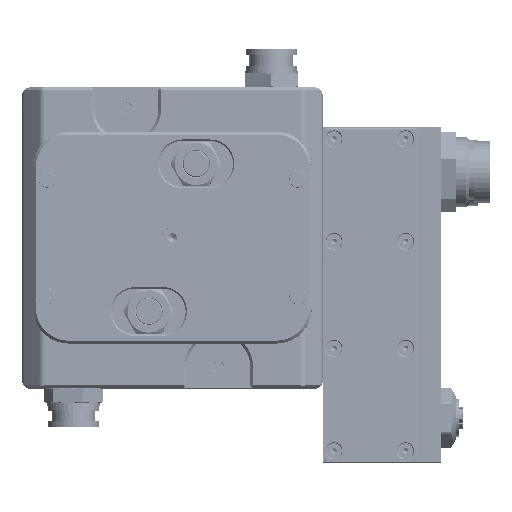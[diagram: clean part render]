
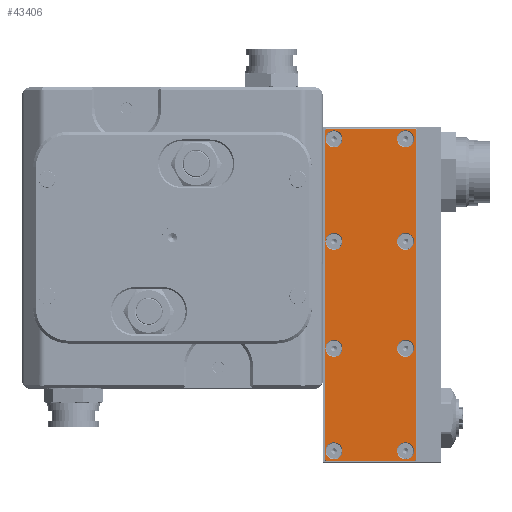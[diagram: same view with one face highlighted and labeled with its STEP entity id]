
A CAD part, top view. The second image highlights one B-rep face of the part: STEP entity #43406.
In plain terms, the highlighted planar face has unit normal (0, 0, 1).
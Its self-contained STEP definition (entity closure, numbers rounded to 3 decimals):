
#38759=CIRCLE('',#109691,3.05);
#38760=CIRCLE('',#109693,3.05);
#38761=CIRCLE('',#109695,3.05);
#38762=CIRCLE('',#109697,3.05);
#38763=CIRCLE('',#109699,3.05);
#38764=CIRCLE('',#109701,3.05);
#38765=CIRCLE('',#109703,3.05);
#38766=CIRCLE('',#109705,3.05);
#38767=CIRCLE('',#109707,3.05);
#38768=CIRCLE('',#109708,3.05);
#38769=CIRCLE('',#109709,3.05);
#38770=CIRCLE('',#109710,3.05);
#38771=CIRCLE('',#109711,3.05);
#38772=CIRCLE('',#109712,3.05);
#38773=CIRCLE('',#109713,3.05);
#38774=CIRCLE('',#109714,3.05);
#43406=ADVANCED_FACE('',(#47430,#47431,#47432,#47433,#47434,#47435,#47436,
#47437,#47438),#46078,.F.);
#46078=PLANE('',#109715);
#47430=FACE_BOUND('',#51351,.T.);
#47431=FACE_BOUND('',#51352,.T.);
#47432=FACE_BOUND('',#51353,.T.);
#47433=FACE_BOUND('',#51354,.T.);
#47434=FACE_BOUND('',#51355,.T.);
#47435=FACE_BOUND('',#51356,.T.);
#47436=FACE_BOUND('',#51357,.T.);
#47437=FACE_BOUND('',#51358,.T.);
#47438=FACE_BOUND('',#51359,.T.);
#51351=EDGE_LOOP('',(#68418,#68419,#68420,#68421,#68422,#68423,#68424,#68425));
#51352=EDGE_LOOP('',(#68426,#68427));
#51353=EDGE_LOOP('',(#68428,#68429));
#51354=EDGE_LOOP('',(#68430,#68431));
#51355=EDGE_LOOP('',(#68432,#68433));
#51356=EDGE_LOOP('',(#68434,#68435));
#51357=EDGE_LOOP('',(#68436,#68437));
#51358=EDGE_LOOP('',(#68438,#68439));
#51359=EDGE_LOOP('',(#68440,#68441));
#68418=ORIENTED_EDGE('',*,*,#89909,.T.);
#68419=ORIENTED_EDGE('',*,*,#89903,.T.);
#68420=ORIENTED_EDGE('',*,*,#89905,.T.);
#68421=ORIENTED_EDGE('',*,*,#89911,.T.);
#68422=ORIENTED_EDGE('',*,*,#89917,.T.);
#68423=ORIENTED_EDGE('',*,*,#89923,.T.);
#68424=ORIENTED_EDGE('',*,*,#89921,.T.);
#68425=ORIENTED_EDGE('',*,*,#89915,.T.);
#68426=ORIENTED_EDGE('',*,*,#89925,.F.);
#68427=ORIENTED_EDGE('',*,*,#89948,.F.);
#68428=ORIENTED_EDGE('',*,*,#89928,.F.);
#68429=ORIENTED_EDGE('',*,*,#89949,.F.);
#68430=ORIENTED_EDGE('',*,*,#89931,.F.);
#68431=ORIENTED_EDGE('',*,*,#89950,.F.);
#68432=ORIENTED_EDGE('',*,*,#89934,.F.);
#68433=ORIENTED_EDGE('',*,*,#89951,.F.);
#68434=ORIENTED_EDGE('',*,*,#89941,.F.);
#68435=ORIENTED_EDGE('',*,*,#89952,.F.);
#68436=ORIENTED_EDGE('',*,*,#89944,.F.);
#68437=ORIENTED_EDGE('',*,*,#89953,.F.);
#68438=ORIENTED_EDGE('',*,*,#89947,.F.);
#68439=ORIENTED_EDGE('',*,*,#89954,.F.);
#68440=ORIENTED_EDGE('',*,*,#89938,.F.);
#68441=ORIENTED_EDGE('',*,*,#89955,.F.);
#80140=VERTEX_POINT('',#166784);
#80143=VERTEX_POINT('',#166789);
#80145=VERTEX_POINT('',#166794);
#80146=VERTEX_POINT('',#166799);
#80149=VERTEX_POINT('',#166806);
#80150=VERTEX_POINT('',#166811);
#80153=VERTEX_POINT('',#166818);
#80154=VERTEX_POINT('',#166823);
#80156=VERTEX_POINT('',#166832);
#80157=VERTEX_POINT('',#166834);
#80158=VERTEX_POINT('',#166838);
#80159=VERTEX_POINT('',#166840);
#80160=VERTEX_POINT('',#166844);
#80161=VERTEX_POINT('',#166846);
#80162=VERTEX_POINT('',#166850);
#80163=VERTEX_POINT('',#166852);
#80164=VERTEX_POINT('',#166856);
#80165=VERTEX_POINT('',#166858);
#80166=VERTEX_POINT('',#166862);
#80167=VERTEX_POINT('',#166864);
#80168=VERTEX_POINT('',#166868);
#80169=VERTEX_POINT('',#166870);
#80170=VERTEX_POINT('',#166874);
#80171=VERTEX_POINT('',#166876);
#89903=EDGE_CURVE('',#80140,#80143,#96699,.T.);
#89905=EDGE_CURVE('',#80143,#80145,#96701,.T.);
#89909=EDGE_CURVE('',#80146,#80140,#96705,.T.);
#89911=EDGE_CURVE('',#80145,#80149,#96707,.T.);
#89915=EDGE_CURVE('',#80150,#80146,#96711,.T.);
#89917=EDGE_CURVE('',#80149,#80153,#96713,.T.);
#89921=EDGE_CURVE('',#80154,#80150,#96717,.T.);
#89923=EDGE_CURVE('',#80153,#80154,#96719,.T.);
#89925=EDGE_CURVE('',#80156,#80157,#38759,.T.);
#89928=EDGE_CURVE('',#80158,#80159,#38760,.T.);
#89931=EDGE_CURVE('',#80160,#80161,#38761,.T.);
#89934=EDGE_CURVE('',#80162,#80163,#38762,.T.);
#89938=EDGE_CURVE('',#80165,#80164,#38763,.T.);
#89941=EDGE_CURVE('',#80167,#80166,#38764,.T.);
#89944=EDGE_CURVE('',#80169,#80168,#38765,.T.);
#89947=EDGE_CURVE('',#80171,#80170,#38766,.T.);
#89948=EDGE_CURVE('',#80157,#80156,#38767,.T.);
#89949=EDGE_CURVE('',#80159,#80158,#38768,.T.);
#89950=EDGE_CURVE('',#80161,#80160,#38769,.T.);
#89951=EDGE_CURVE('',#80163,#80162,#38770,.T.);
#89952=EDGE_CURVE('',#80166,#80167,#38771,.T.);
#89953=EDGE_CURVE('',#80168,#80169,#38772,.T.);
#89954=EDGE_CURVE('',#80170,#80171,#38773,.T.);
#89955=EDGE_CURVE('',#80164,#80165,#38774,.T.);
#96699=LINE('',#166790,#101712);
#96701=LINE('',#166795,#101714);
#96705=LINE('',#166802,#101718);
#96707=LINE('',#166807,#101720);
#96711=LINE('',#166814,#101724);
#96713=LINE('',#166819,#101726);
#96717=LINE('',#166826,#101730);
#96719=LINE('',#166829,#101732);
#101712=VECTOR('',#128818,1.);
#101714=VECTOR('',#128822,1.);
#101718=VECTOR('',#128828,1.);
#101720=VECTOR('',#128832,1.);
#101724=VECTOR('',#128838,1.);
#101726=VECTOR('',#128842,1.);
#101730=VECTOR('',#128848,1.);
#101732=VECTOR('',#128852,1.);
#109691=AXIS2_PLACEMENT_3D('',#166833,#128856,#128857);
#109693=AXIS2_PLACEMENT_3D('',#166839,#128862,#128863);
#109695=AXIS2_PLACEMENT_3D('',#166845,#128868,#128869);
#109697=AXIS2_PLACEMENT_3D('',#166851,#128874,#128875);
#109699=AXIS2_PLACEMENT_3D('',#166859,#128881,#128882);
#109701=AXIS2_PLACEMENT_3D('',#166865,#128887,#128888);
#109703=AXIS2_PLACEMENT_3D('',#166871,#128893,#128894);
#109705=AXIS2_PLACEMENT_3D('',#166877,#128899,#128900);
#109707=AXIS2_PLACEMENT_3D('',#166879,#128903,#128904);
#109708=AXIS2_PLACEMENT_3D('',#166880,#128905,#128906);
#109709=AXIS2_PLACEMENT_3D('',#166881,#128907,#128908);
#109710=AXIS2_PLACEMENT_3D('',#166882,#128909,#128910);
#109711=AXIS2_PLACEMENT_3D('',#166883,#128911,#128912);
#109712=AXIS2_PLACEMENT_3D('',#166884,#128913,#128914);
#109713=AXIS2_PLACEMENT_3D('',#166885,#128915,#128916);
#109714=AXIS2_PLACEMENT_3D('',#166886,#128917,#128918);
#109715=AXIS2_PLACEMENT_3D('',#166887,#128919,#128920);
#128818=DIRECTION('',(-0.707,0.707,0.));
#128822=DIRECTION('',(-1.,0.,0.));
#128828=DIRECTION('',(0.,1.,0.));
#128832=DIRECTION('',(-0.707,-0.707,0.));
#128838=DIRECTION('',(0.707,0.707,0.));
#128842=DIRECTION('',(0.,-1.,0.));
#128848=DIRECTION('',(1.,0.,0.));
#128852=DIRECTION('',(0.707,-0.707,0.));
#128856=DIRECTION('',(0.,0.,1.));
#128857=DIRECTION('',(0.,-1.,0.));
#128862=DIRECTION('',(0.,0.,1.));
#128863=DIRECTION('',(0.,-1.,0.));
#128868=DIRECTION('',(0.,0.,1.));
#128869=DIRECTION('',(0.,-1.,0.));
#128874=DIRECTION('',(0.,0.,1.));
#128875=DIRECTION('',(0.,-1.,0.));
#128881=DIRECTION('',(0.,0.,1.));
#128882=DIRECTION('',(0.,-1.,0.));
#128887=DIRECTION('',(0.,0.,1.));
#128888=DIRECTION('',(0.,-1.,0.));
#128893=DIRECTION('',(0.,0.,1.));
#128894=DIRECTION('',(0.,-1.,0.));
#128899=DIRECTION('',(0.,0.,1.));
#128900=DIRECTION('',(0.,-1.,0.));
#128903=DIRECTION('',(0.,0.,1.));
#128904=DIRECTION('',(0.,-1.,0.));
#128905=DIRECTION('',(0.,0.,1.));
#128906=DIRECTION('',(0.,-1.,0.));
#128907=DIRECTION('',(0.,0.,1.));
#128908=DIRECTION('',(0.,-1.,0.));
#128909=DIRECTION('',(0.,0.,1.));
#128910=DIRECTION('',(0.,-1.,0.));
#128911=DIRECTION('',(0.,0.,1.));
#128912=DIRECTION('',(0.,-1.,0.));
#128913=DIRECTION('',(0.,0.,1.));
#128914=DIRECTION('',(0.,-1.,0.));
#128915=DIRECTION('',(0.,0.,1.));
#128916=DIRECTION('',(0.,-1.,0.));
#128917=DIRECTION('',(0.,0.,1.));
#128918=DIRECTION('',(0.,-1.,0.));
#128919=DIRECTION('',(0.,0.,-1.));
#128920=DIRECTION('',(0.,-1.,0.));
#166784=CARTESIAN_POINT('',(65.517,43.91,27.25));
#166789=CARTESIAN_POINT('',(65.134,44.293,27.25));
#166790=CARTESIAN_POINT('',(65.075,44.351,27.25));
#166794=CARTESIAN_POINT('',(33.3,44.293,27.25));
#166795=CARTESIAN_POINT('',(33.217,44.293,27.25));
#166799=CARTESIAN_POINT('',(65.517,-74.525,27.25));
#166802=CARTESIAN_POINT('',(65.517,43.993,27.25));
#166806=CARTESIAN_POINT('',(32.917,43.91,27.25));
#166807=CARTESIAN_POINT('',(32.858,43.851,27.25));
#166811=CARTESIAN_POINT('',(65.134,-74.907,27.25));
#166814=CARTESIAN_POINT('',(65.575,-74.466,27.25));
#166818=CARTESIAN_POINT('',(32.917,-74.525,27.25));
#166819=CARTESIAN_POINT('',(32.917,-74.607,27.25));
#166823=CARTESIAN_POINT('',(33.3,-74.907,27.25));
#166826=CARTESIAN_POINT('',(65.217,-74.907,27.25));
#166829=CARTESIAN_POINT('',(33.358,-74.966,27.25));
#166832=CARTESIAN_POINT('',(61.717,-74.357,27.25));
#166833=CARTESIAN_POINT('',(61.717,-71.307,27.25));
#166834=CARTESIAN_POINT('',(61.717,-68.257,27.25));
#166838=CARTESIAN_POINT('',(36.017,-74.357,27.25));
#166839=CARTESIAN_POINT('',(36.017,-71.307,27.25));
#166840=CARTESIAN_POINT('',(36.017,-68.257,27.25));
#166844=CARTESIAN_POINT('',(61.717,-37.557,27.25));
#166845=CARTESIAN_POINT('',(61.717,-34.507,27.25));
#166846=CARTESIAN_POINT('',(61.717,-31.457,27.25));
#166850=CARTESIAN_POINT('',(36.017,-37.557,27.25));
#166851=CARTESIAN_POINT('',(36.017,-34.507,27.25));
#166852=CARTESIAN_POINT('',(36.017,-31.457,27.25));
#166856=CARTESIAN_POINT('',(61.717,6.943,27.25));
#166858=CARTESIAN_POINT('',(61.717,0.843,27.25));
#166859=CARTESIAN_POINT('',(61.717,3.893,27.25));
#166862=CARTESIAN_POINT('',(36.017,6.943,27.25));
#166864=CARTESIAN_POINT('',(36.017,0.843,27.25));
#166865=CARTESIAN_POINT('',(36.017,3.893,27.25));
#166868=CARTESIAN_POINT('',(61.717,43.743,27.25));
#166870=CARTESIAN_POINT('',(61.717,37.643,27.25));
#166871=CARTESIAN_POINT('',(61.717,40.693,27.25));
#166874=CARTESIAN_POINT('',(36.017,43.743,27.25));
#166876=CARTESIAN_POINT('',(36.017,37.643,27.25));
#166877=CARTESIAN_POINT('',(36.017,40.693,27.25));
#166879=CARTESIAN_POINT('',(61.717,-71.307,27.25));
#166880=CARTESIAN_POINT('',(36.017,-71.307,27.25));
#166881=CARTESIAN_POINT('',(61.717,-34.507,27.25));
#166882=CARTESIAN_POINT('',(36.017,-34.507,27.25));
#166883=CARTESIAN_POINT('',(36.017,3.893,27.25));
#166884=CARTESIAN_POINT('',(61.717,40.693,27.25));
#166885=CARTESIAN_POINT('',(36.017,40.693,27.25));
#166886=CARTESIAN_POINT('',(61.717,3.893,27.25));
#166887=CARTESIAN_POINT('',(49.217,-15.307,27.25));
